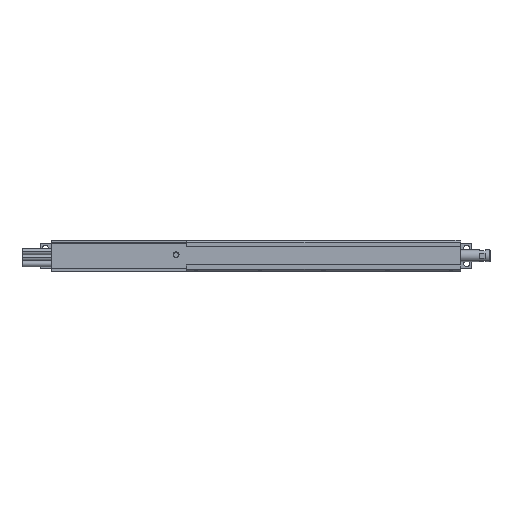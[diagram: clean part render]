
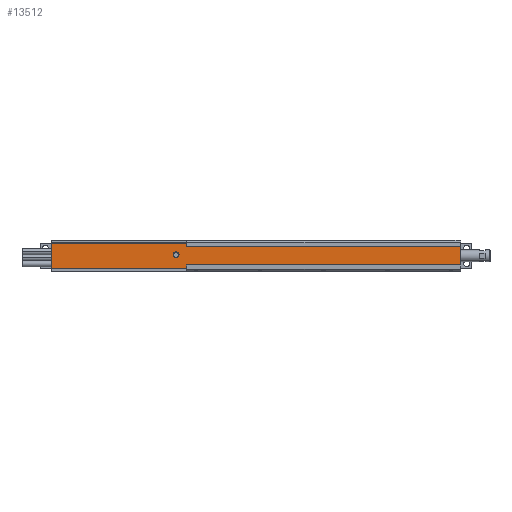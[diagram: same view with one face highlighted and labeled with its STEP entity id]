
A CAD part, left-side view. The second image highlights one B-rep face of the part: STEP entity #13512.
In plain terms, the highlighted planar face has unit normal (-1, 0, 0) as drawn and (0, 0, -1) by its records, which use the part's own axes.
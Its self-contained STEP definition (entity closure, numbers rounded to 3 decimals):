
#1090 = DIRECTION ( 'NONE',  ( 0., 0., -1. ) ) ;
#1247 = EDGE_CURVE ( 'NONE', #16244, #14153, #14165, .T. ) ;
#1407 = EDGE_CURVE ( 'NONE', #14118, #5814, #6398, .T. ) ;
#1481 = EDGE_CURVE ( 'NONE', #22520, #7664, #25120, .T. ) ;
#1503 = DIRECTION ( 'NONE',  ( 0., 0., 1. ) ) ;
#1572 = CARTESIAN_POINT ( 'NONE',  ( 0., 1.8, -75. ) ) ;
#1822 = CARTESIAN_POINT ( 'NONE',  ( 140.65, 0., -75. ) ) ;
#2222 = LINE ( 'NONE', #10060, #6853 ) ;
#2522 = LINE ( 'NONE', #15758, #23071 ) ;
#2654 = CARTESIAN_POINT ( 'NONE',  ( 210., 13., -75. ) ) ;
#2802 = AXIS2_PLACEMENT_3D ( 'NONE', #12917, #1090, #14922 ) ;
#3008 = CARTESIAN_POINT ( 'NONE',  ( 144.475, 7., -75. ) ) ;
#3064 = VERTEX_POINT ( 'NONE', #12459 ) ;
#3262 = DIRECTION ( 'NONE',  ( 0., -1., 0. ) ) ;
#3698 = ORIENTED_EDGE ( 'NONE', *, *, #25618, .T. ) ;
#3945 = VECTOR ( 'NONE', #21997, 1000. ) ;
#4020 = ORIENTED_EDGE ( 'NONE', *, *, #13709, .T. ) ;
#4907 = LINE ( 'NONE', #21960, #8883 ) ;
#5458 = CARTESIAN_POINT ( 'NONE',  ( 140.65, 13., -75. ) ) ;
#5814 = VERTEX_POINT ( 'NONE', #1572 ) ;
#5884 = LINE ( 'NONE', #23102, #20550 ) ;
#6398 = LINE ( 'NONE', #10211, #20429 ) ;
#6469 = DIRECTION ( 'NONE',  ( -1., 0., 0. ) ) ;
#6853 = VECTOR ( 'NONE', #24093, 1000. ) ;
#7059 = CARTESIAN_POINT ( 'NONE',  ( 146., 7., -75. ) ) ;
#7404 = ORIENTED_EDGE ( 'NONE', *, *, #12228, .F. ) ;
#7664 = VERTEX_POINT ( 'NONE', #14402 ) ;
#8310 = DIRECTION ( 'NONE',  ( 0., -1., 0. ) ) ;
#8829 = EDGE_CURVE ( 'NONE', #11711, #20386, #2522, .T. ) ;
#8883 = VECTOR ( 'NONE', #14019, 1000. ) ;
#8916 = ORIENTED_EDGE ( 'NONE', *, *, #1481, .F. ) ;
#9191 = ORIENTED_EDGE ( 'NONE', *, *, #1247, .F. ) ;
#9253 = ORIENTED_EDGE ( 'NONE', *, *, #1407, .T. ) ;
#9393 = EDGE_LOOP ( 'NONE', ( #21453, #16111, #9253, #4020, #18604, #13310, #8916, #3698 ) ) ;
#9708 = CARTESIAN_POINT ( 'NONE',  ( 147.525, 7., -75. ) ) ;
#9885 = EDGE_LOOP ( 'NONE', ( #9191, #7404 ) ) ;
#10044 = EDGE_CURVE ( 'NONE', #7664, #23432, #13031, .T. ) ;
#10060 = CARTESIAN_POINT ( 'NONE',  ( 0., -138.957, -75. ) ) ;
#10211 = CARTESIAN_POINT ( 'NONE',  ( 0., 1.8, -75. ) ) ;
#11386 = DIRECTION ( 'NONE',  ( 0., -1., 0. ) ) ;
#11711 = VERTEX_POINT ( 'NONE', #25010 ) ;
#12228 = EDGE_CURVE ( 'NONE', #14153, #16244, #25749, .T. ) ;
#12387 = VECTOR ( 'NONE', #11386, 1000. ) ;
#12459 = CARTESIAN_POINT ( 'NONE',  ( 0., 11.2, -75. ) ) ;
#12917 = CARTESIAN_POINT ( 'NONE',  ( 146., 7., -75. ) ) ;
#13031 = LINE ( 'NONE', #5458, #12387 ) ;
#13037 = CARTESIAN_POINT ( 'NONE',  ( 210., 13., -75. ) ) ;
#13310 = ORIENTED_EDGE ( 'NONE', *, *, #10044, .F. ) ;
#13338 = PLANE ( 'NONE',  #18786 ) ;
#13512 = ADVANCED_FACE ( 'NONE', ( #18371, #13714 ), #13338, .F. ) ;
#13709 = EDGE_CURVE ( 'NONE', #5814, #3064, #2222, .T. ) ;
#13714 = FACE_OUTER_BOUND ( 'NONE', #9393, .T. ) ;
#14019 = DIRECTION ( 'NONE',  ( -1., 0., 0. ) ) ;
#14118 = VERTEX_POINT ( 'NONE', #15576 ) ;
#14153 = VERTEX_POINT ( 'NONE', #9708 ) ;
#14165 = CIRCLE ( 'NONE', #23075, 1.525 ) ;
#14402 = CARTESIAN_POINT ( 'NONE',  ( 140.65, 13., -75. ) ) ;
#14922 = DIRECTION ( 'NONE',  ( -1., 0., 0. ) ) ;
#14949 = LINE ( 'NONE', #24313, #20292 ) ;
#15346 = DIRECTION ( 'NONE',  ( 1., 0., 0. ) ) ;
#15576 = CARTESIAN_POINT ( 'NONE',  ( 140.65, 1.8, -75. ) ) ;
#15758 = CARTESIAN_POINT ( 'NONE',  ( 210., 0., -75. ) ) ;
#15996 = EDGE_CURVE ( 'NONE', #23432, #3064, #4907, .T. ) ;
#16111 = ORIENTED_EDGE ( 'NONE', *, *, #22552, .F. ) ;
#16244 = VERTEX_POINT ( 'NONE', #3008 ) ;
#18371 = FACE_BOUND ( 'NONE', #9885, .T. ) ;
#18604 = ORIENTED_EDGE ( 'NONE', *, *, #15996, .F. ) ;
#18786 = AXIS2_PLACEMENT_3D ( 'NONE', #21309, #1503, #15346 ) ;
#18981 = DIRECTION ( 'NONE',  ( 0., 0., -1. ) ) ;
#20292 = VECTOR ( 'NONE', #8310, 1000. ) ;
#20386 = VERTEX_POINT ( 'NONE', #1822 ) ;
#20429 = VECTOR ( 'NONE', #24121, 1000. ) ;
#20550 = VECTOR ( 'NONE', #3262, 1000. ) ;
#21309 = CARTESIAN_POINT ( 'NONE',  ( 210., 13., -75. ) ) ;
#21453 = ORIENTED_EDGE ( 'NONE', *, *, #8829, .T. ) ;
#21801 = DIRECTION ( 'NONE',  ( -1., 0., 0. ) ) ;
#21960 = CARTESIAN_POINT ( 'NONE',  ( 0., 11.2, -75. ) ) ;
#21997 = DIRECTION ( 'NONE',  ( -1., 0., 0. ) ) ;
#22520 = VERTEX_POINT ( 'NONE', #13037 ) ;
#22552 = EDGE_CURVE ( 'NONE', #14118, #20386, #5884, .T. ) ;
#23071 = VECTOR ( 'NONE', #21801, 1000. ) ;
#23075 = AXIS2_PLACEMENT_3D ( 'NONE', #7059, #18981, #6469 ) ;
#23102 = CARTESIAN_POINT ( 'NONE',  ( 140.65, 13., -75. ) ) ;
#23128 = CARTESIAN_POINT ( 'NONE',  ( 140.65, 11.2, -75. ) ) ;
#23432 = VERTEX_POINT ( 'NONE', #23128 ) ;
#24093 = DIRECTION ( 'NONE',  ( 0., 1., 0. ) ) ;
#24121 = DIRECTION ( 'NONE',  ( -1., 0., 0. ) ) ;
#24313 = CARTESIAN_POINT ( 'NONE',  ( 210., 13., -75. ) ) ;
#25010 = CARTESIAN_POINT ( 'NONE',  ( 210., 0., -75. ) ) ;
#25120 = LINE ( 'NONE', #2654, #3945 ) ;
#25618 = EDGE_CURVE ( 'NONE', #22520, #11711, #14949, .T. ) ;
#25749 = CIRCLE ( 'NONE', #2802, 1.525 ) ;
